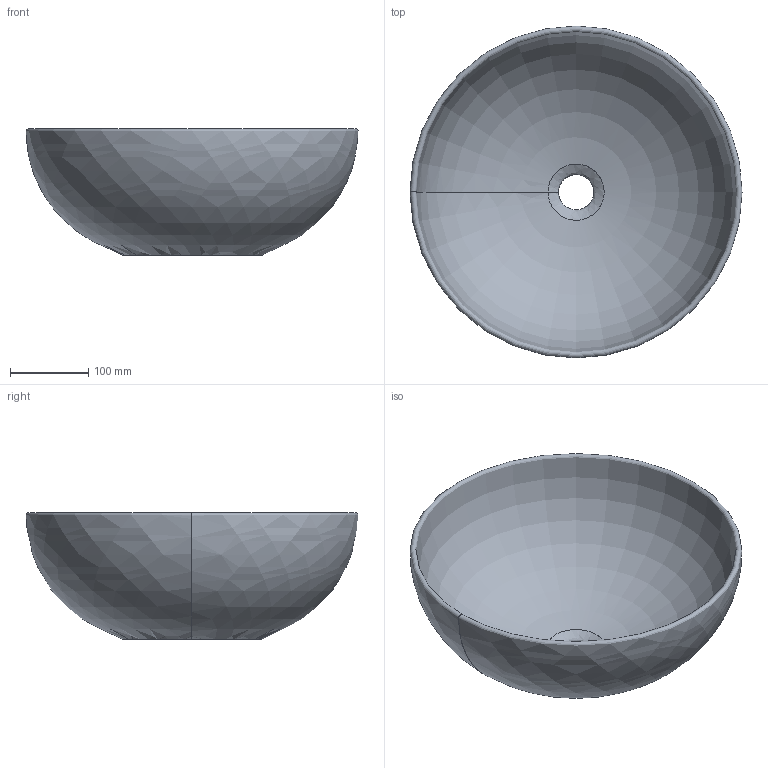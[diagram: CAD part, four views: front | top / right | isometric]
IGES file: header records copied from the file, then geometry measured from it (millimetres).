
Global section: file name: C:\Users\FULVIO\Desktop\Nic\2019\Giugno\Nuovi sanitari\Nuovo Ciotola 42\Modello 3D\Ciotola 42.igs; native system: Rhinoceros ( Mar  6 2018 ); preprocessor: Trout Lake IGES 012 Mar  6 2018; date: 190624.093740; units: millimetre
Bounding box: 424.73 x 424.47 x 162 mm (x, y, z)
Surface area: 486846.2 mm2 (no closed solid volume)
Topology: 0 solids, 0 shells, 3 faces, 28 edges, 25 vertices
Faces by surface type: bspline 3
